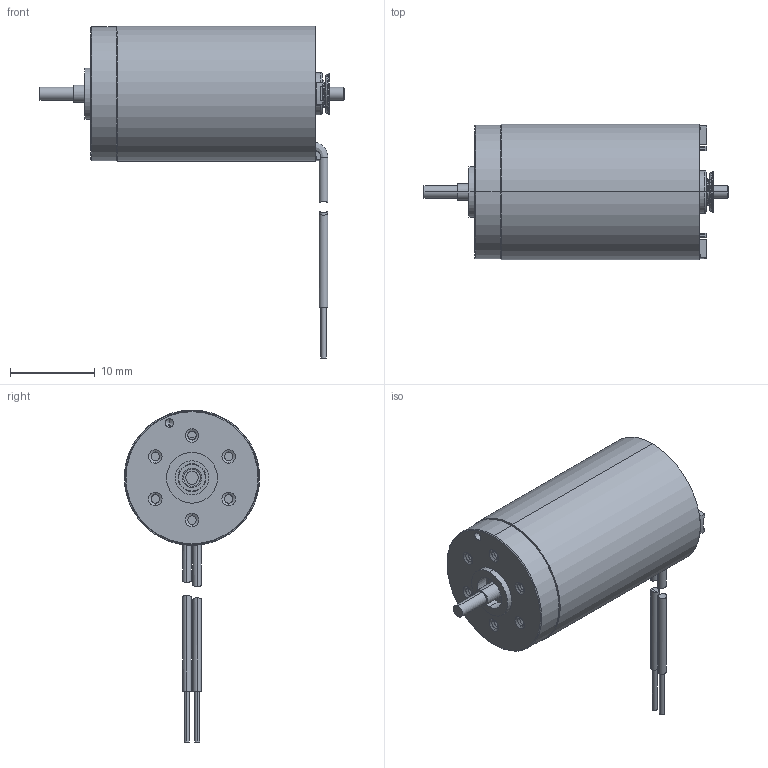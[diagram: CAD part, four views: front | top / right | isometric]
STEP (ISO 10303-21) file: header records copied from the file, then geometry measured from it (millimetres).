
FILE_DESCRIPTION (( 'STEP AP214' ), '1' );
FILE_NAME ('DCX16SG.STEP', '2014-10-15T12:36:16', ( '' ), ( '' ), 'SwSTEP 2.0', 'SolidWorks 2013', '' );
FILE_SCHEMA (( 'AUTOMOTIVE_DESIGN' ));
Length unit declared in the file: millimetre
Products named in the file (21): 19; 18; 17; 13; 15; 14; 7; 3; 1; 6; 5; 4; 2; 16; 8; DCX16SG; 1577440; 9; 10; 11; 12
Assembly tree (20 placements, depth 2):
  DCX16SG
    2
    4
    5
    6
    1
    3
    7
    14
    15
    13
    17
    18
    19
    12
    11
    10
    9
    1577440
    8
    16
Bounding box: 35.9 x 16 x 39.2 mm (x, y, z)
Volume: 4743.1 mm3; surface area: 4030.1 mm2
Topology: 20 solids, 20 shells, 996 faces, 2497 edges, 1597 vertices
Faces by surface type: plane 517, cylinder 273, cone 136, bspline 70
Entity records: 43292 total; most frequent: CARTESIAN_POINT 7397, DIRECTION 5039, ORIENTED_EDGE 4984, EDGE_CURVE 2492, AXIS2_PLACEMENT_3D 1695, VECTOR 1649, LINE 1649, VERTEX_POINT 1597
